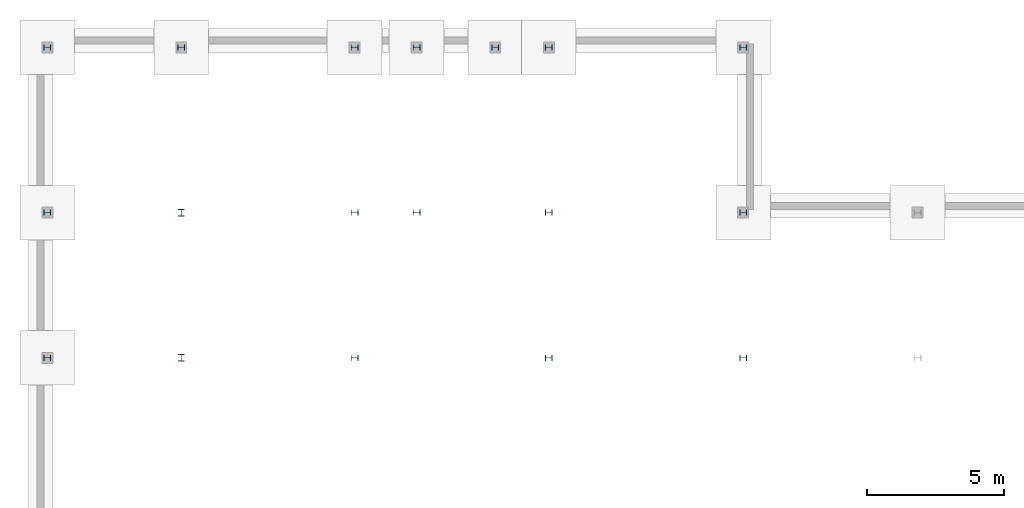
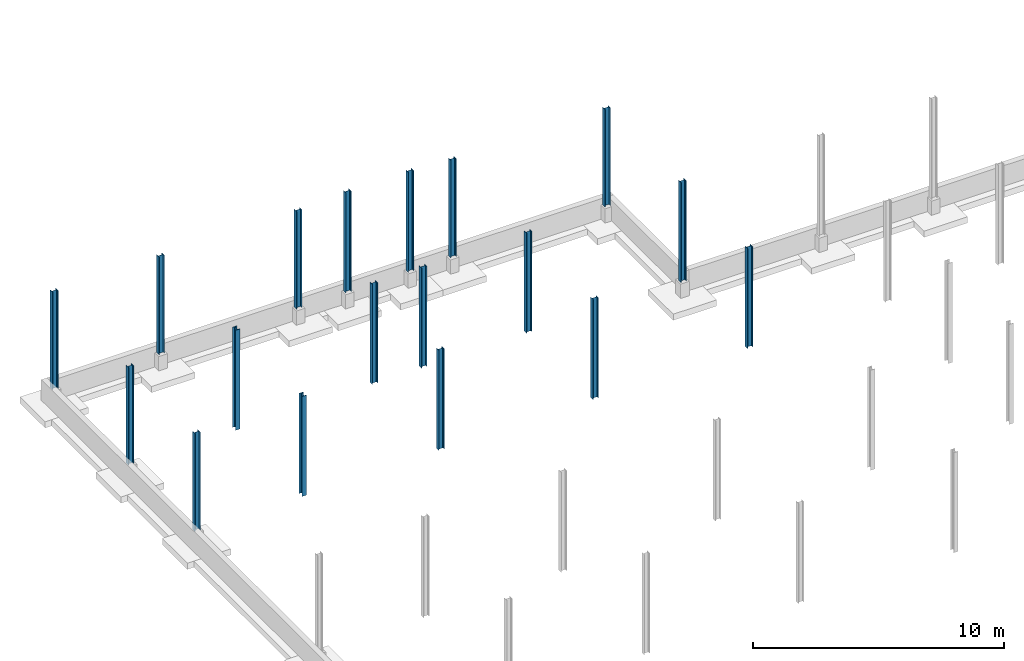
# One storey, part 8 of 11: 18 columns.
"""IFC2X3 building model written with IfcOpenShell, lengths in metres."""

from ifc_helpers import new_model, entity, si_unit, converted_unit, frame, frame_2d, origin, place, context, project, spatial, polyline, circle_curve, parameter, trimmed, segment, composite_curve, outline, extrude, source, transform, mapped, material, type_object, type_shapes, element, save


model = new_model("IFC2X3")

# Units and contexts
model_context = context("Model", 3, precision=1e-09, world=origin())
plan_context = context("Plan", 3, precision=1e-09, world=origin())
ifc_project = project(units=[si_unit("LENGTHUNIT", "METRE"), si_unit("AREAUNIT", "SQUARE_METRE"), si_unit("VOLUMEUNIT", "CUBIC_METRE"), converted_unit("PLANEANGLEUNIT", "DEGREE", entity("IfcRatioMeasure", 0.01745329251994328), si_unit("PLANEANGLEUNIT", "RADIAN"), dimensions=[0, 0, 0, 0, 0, 0, 0]), si_unit("TIMEUNIT", "SECOND")], contexts=[model_context, plan_context])

# Site, building, storey
site_placement = place(None, origin())
site = spatial("IfcSite", under=ifc_project, at=site_placement, Name="Default", CompositionType="ELEMENT")
building_placement = place(site_placement, origin())
building = spatial("IfcBuilding", under=site, at=building_placement, CompositionType="ELEMENT")
storey_placement = place(building_placement, frame((0.0, 0.0, -1.0)))
storey = spatial("IfcBuildingStorey", under=building, at=storey_placement, Name="TOF Footing", CompositionType="ELEMENT", Elevation=-1.000000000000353)

# Columns
ifc_material = material(Name="Metal - Steel - 345 MPa")
column_type_1 = type_object("IfcColumnType", Name="W250X67", PredefinedType="COLUMN")
shared_shape_1 = source(origin(), model_context, "Body", "SweptSolid", [
    extrude(outline(composite_curve([segment(polyline([(-0.102, -0.1285), (0.102, -0.1285)]), True, "CONTINUOUS"), segment(polyline([(0.102, -0.1285), (0.102, -0.1128)]), True, "CONTINUOUS"), segment(polyline([(0.102, -0.1128), (0.02174999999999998, -0.1128)]), True, "CONTINUOUS"), segment(trimmed(circle_curve(frame_2d((0.02174999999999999, -0.09549999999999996), x_axis=(-1.0, 0.0)), 0.0173), [parameter(4.071109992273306e-13)], [parameter(90.00000000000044)], True, "PARAMETER"), False, "CONTINUOUS"), segment(polyline([(0.004449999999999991, -0.09549999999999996), (0.004449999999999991, 0.09549999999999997)]), True, "CONTINUOUS"), segment(trimmed(circle_curve(frame_2d((0.02174999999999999, 0.09549999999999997), x_axis=(-1.0, 0.0)), 0.0173), [parameter(270.0000000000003)], [parameter(3.562221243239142e-13)], True, "PARAMETER"), False, "CONTINUOUS"), segment(polyline([(0.02174999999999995, 0.1128), (0.102, 0.1128)]), True, "CONTINUOUS"), segment(polyline([(0.102, 0.1128), (0.102, 0.1285)]), True, "CONTINUOUS"), segment(polyline([(0.102, 0.1285), (-0.102, 0.1285)]), True, "CONTINUOUS"), segment(polyline([(-0.102, 0.1285), (-0.102, 0.1128)]), True, "CONTINUOUS"), segment(polyline([(-0.102, 0.1128), (-0.02174999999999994, 0.1128)]), True, "CONTINUOUS"), segment(trimmed(circle_curve(frame_2d((-0.02175000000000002, 0.09549999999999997), x_axis=(-1.0, 0.0)), 0.0173), [parameter(179.9999999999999)], [parameter(269.9999999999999)], True, "PARAMETER"), False, "CONTINUOUS"), segment(polyline([(-0.004450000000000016, 0.09550000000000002), (-0.004450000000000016, -0.09549999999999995)]), True, "CONTINUOUS"), segment(trimmed(circle_curve(frame_2d((-0.02175000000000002, -0.09549999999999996), x_axis=(-1.0, 0.0)), 0.0173), [parameter(90.00000000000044)], [parameter(180.0000000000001)], True, "PARAMETER"), False, "CONTINUOUS"), segment(polyline([(-0.02175000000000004, -0.1128), (-0.102, -0.1128)]), True, "CONTINUOUS"), segment(polyline([(-0.102, -0.1128), (-0.102, -0.1285)]), True, "CONTINUOUS")], self_intersect=False)), frame((0.0, 0.0, -0.305000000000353), z_axis=(0.0, 0.0, 1.0), x_axis=(-1.0, 0.0, 0.0)), (0.0, 0.0, 1.0), 4.87500000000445),
])
type_shapes(column_type_1, [shared_shape_1])
for number, where, z_axis, x_axis in (
    (1, (-33.55, 50.09000000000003, 1.0), (0.0, 0.0, 1.0), (0.0, 1.0, 0.0)),
    (2, (-26.44, 50.09, 1.0), (0.0, 0.0, 1.0), (0.0, 1.0, 0.0)),
    (3, (-47.0, 50.09000000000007, 1.0), (0.0, 0.0, 1.0), (-1.0, 0.0, 0.0)),
    (4, (-38.39, 50.09000000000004, 1.0), (0.0, 0.0, 1.0), (0.0, 1.0, 0.0)),
    (5, (-38.38999999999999, 56.14000000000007, 1.0), (0.0, 0.0, 1.0), (0.0, 1.0, 0.0)),
    (6, (-40.66, 50.09000000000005, 1.0), (0.0, 0.0, 1.0), (0.0, 1.0, 0.0)),
    (7, (-26.44000000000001, 44.78000000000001, 1.0), (0.0, 0.0, 1.0), (0.0, 1.0, 0.0)),
    (8, (-33.55000000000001, 44.78000000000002, 1.0), (0.0, 0.0, 1.0), (0.0, 1.0, 0.0)),
    (9, (-35.50999999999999, 56.14000000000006, 1.0), (0.0, 0.0, 1.0), (0.0, 1.0, 0.0)),
    (10, (-40.66000000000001, 44.78000000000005, 1.0), (0.0, 0.0, 1.0), (0.0, 1.0, 0.0)),
):
    element("IfcColumn", number, at=place(storey_placement, frame(where, z_axis=z_axis, x_axis=x_axis)), inside=storey, type_object=column_type_1, material=ifc_material, Name="M_W-Wide Flange-Column:W250X67:W250X67", ObjectType="W250X67", context=model_context, shape_type="MappedRepresentation", body=[
        mapped(shared_shape_1, transform((0.0, 0.0, 0.0), scale=1.0)),
    ])
column_placement = place(storey_placement, frame((-47.0, 44.78000000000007, 1.0)))
element("IfcColumn", 11, at=column_placement, inside=storey, type_object=column_type_1, material=ifc_material, Name="M_W-Wide Flange-Column:W250X67:W250X67", ObjectType="W250X67", context=model_context, shape_type="MappedRepresentation", body=[
    mapped(shared_shape_1, transform((0.0, 0.0, 0.0), scale=1.0)),
])
column_type_2 = type_object("IfcColumnType", Name="W250X67", PredefinedType="COLUMN")
shared_shape_2 = source(origin(), model_context, "Body", "SweptSolid", [
    extrude(outline(composite_curve([segment(polyline([(-0.102, -0.1285), (0.102, -0.1285)]), True, "CONTINUOUS"), segment(polyline([(0.102, -0.1285), (0.102, -0.1128)]), True, "CONTINUOUS"), segment(polyline([(0.102, -0.1128), (0.02174999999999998, -0.1128)]), True, "CONTINUOUS"), segment(trimmed(circle_curve(frame_2d((0.02174999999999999, -0.09549999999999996), x_axis=(-1.0, 0.0)), 0.0173), [parameter(4.071109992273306e-13)], [parameter(90.00000000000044)], True, "PARAMETER"), False, "CONTINUOUS"), segment(polyline([(0.004449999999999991, -0.09549999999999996), (0.004449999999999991, 0.09549999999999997)]), True, "CONTINUOUS"), segment(trimmed(circle_curve(frame_2d((0.02174999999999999, 0.09549999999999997), x_axis=(-1.0, 0.0)), 0.0173), [parameter(270.0000000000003)], [parameter(3.562221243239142e-13)], True, "PARAMETER"), False, "CONTINUOUS"), segment(polyline([(0.02174999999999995, 0.1128), (0.102, 0.1128)]), True, "CONTINUOUS"), segment(polyline([(0.102, 0.1128), (0.102, 0.1285)]), True, "CONTINUOUS"), segment(polyline([(0.102, 0.1285), (-0.102, 0.1285)]), True, "CONTINUOUS"), segment(polyline([(-0.102, 0.1285), (-0.102, 0.1128)]), True, "CONTINUOUS"), segment(polyline([(-0.102, 0.1128), (-0.02174999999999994, 0.1128)]), True, "CONTINUOUS"), segment(trimmed(circle_curve(frame_2d((-0.02175000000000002, 0.09549999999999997), x_axis=(-1.0, 0.0)), 0.0173), [parameter(179.9999999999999)], [parameter(269.9999999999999)], True, "PARAMETER"), False, "CONTINUOUS"), segment(polyline([(-0.004450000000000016, 0.09550000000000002), (-0.004450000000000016, -0.09549999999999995)]), True, "CONTINUOUS"), segment(trimmed(circle_curve(frame_2d((-0.02175000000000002, -0.09549999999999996), x_axis=(-1.0, 0.0)), 0.0173), [parameter(90.00000000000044)], [parameter(180.0000000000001)], True, "PARAMETER"), False, "CONTINUOUS"), segment(polyline([(-0.02175000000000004, -0.1128), (-0.102, -0.1128)]), True, "CONTINUOUS"), segment(polyline([(-0.102, -0.1128), (-0.102, -0.1285)]), True, "CONTINUOUS")], self_intersect=False)), frame((0.0, 0.0, -0.305000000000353), z_axis=(0.0, 0.0, 1.0), x_axis=(-1.0, 0.0, 0.0)), (0.0, 0.0, 1.0), 4.755000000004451),
])
type_shapes(column_type_2, [shared_shape_2])
for number, where, z_axis, x_axis in (
    (12, (-40.65999999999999, 56.14000000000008, 1.0), (0.0, 0.0, 1.0), (0.0, 1.0, 0.0)),
    (13, (-51.89999999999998, 50.09000000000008, 1.0), (0.0, 0.0, 1.0), (0.0, -1.0, 0.0)),
    (14, (-51.89999999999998, 56.14000000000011, 1.0), (0.0, 0.0, 1.0), (0.0, 1.0, 0.0)),
    (15, (-47.0, 56.14000000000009, 1.0), (0.0, 0.0, 1.0), (0.0, 1.0, 0.0)),
    (16, (-26.43999999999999, 56.14000000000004, 1.0), (0.0, 0.0, 1.0), (0.0, 1.0, 0.0)),
    (17, (-33.54999999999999, 56.14000000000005, 1.0), (0.0, 0.0, 1.0), (0.0, 1.0, 0.0)),
    (18, (-51.89999999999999, 44.78000000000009, 1.0), (0.0, 0.0, 1.0), (0.0, -1.0, 0.0)),
):
    element("IfcColumn", number, at=place(storey_placement, frame(where, z_axis=z_axis, x_axis=x_axis)), inside=storey, type_object=column_type_2, material=ifc_material, Name="M_W-Wide Flange-Column:W250X67:W250X67", ObjectType="W250X67", context=model_context, shape_type="MappedRepresentation", body=[
        mapped(shared_shape_2, transform((0.0, 0.0, 0.0), scale=1.0)),
    ])

save(model, "model.ifc")
